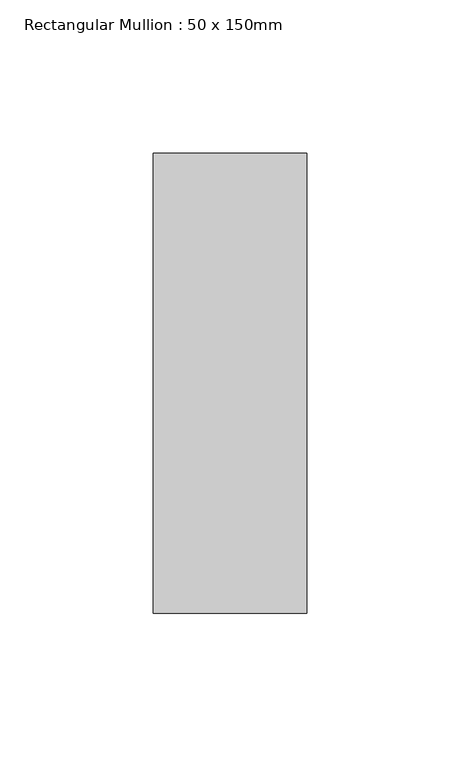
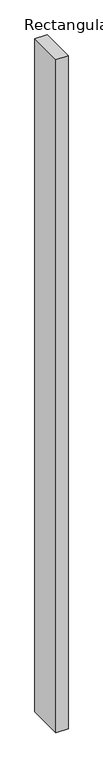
"""IFC4 building model written with IfcOpenShell, lengths in millimetres: member geometry, Rectangular Mullion : 50 x 150mm."""

import ifcopenshell
import ifcopenshell.guid

model = None  # the IFC model being written
_history = None  # IfcOwnerHistory: only IFC2X3 demands one
_inside = {}  # id of a spatial element -> (the spatial element, [elements in it])
_under = {}  # id of a project, library or spatial element -> (it, [spatial elements below it])
_declared = {}  # id of a project -> (the project, [libraries it declares])
_typed = {}  # id of a type object -> (the type object, [elements of that type])
_made_of = {}  # id of a material, layer set ... -> (it, [elements and type objects made of it])


def new_model(schema):
    """Start an empty IFC model of exactly this schema.

    Asked for "IFC4X3", IfcOpenShell would pick the latest addendum, in which some entities
    have other attributes; the version numbers below select the first issue.
    IFC2X3 requires an IfcOwnerHistory on every rooted entity: one is made here for all.
    """
    global model, _history
    if schema == "IFC4X3":
        model = ifcopenshell.file(schema_version=(4, 3, 0, 0))
    else:
        model = ifcopenshell.file(schema=schema)
    _inside.clear()
    _under.clear()
    _declared.clear()
    _typed.clear()
    _made_of.clear()
    _history = None
    if model.schema == "IFC2X3":
        org = make("IfcOrganization", Name="unknown")
        user = make(
            "IfcPersonAndOrganization",
            ThePerson=make("IfcPerson", FamilyName="unknown"),
            TheOrganization=org,
        )
        app = make(
            "IfcApplication",
            ApplicationDeveloper=org,
            Version="unknown",
            ApplicationFullName="unknown",
            ApplicationIdentifier="unknown",
        )
        _history = make(
            "IfcOwnerHistory",
            OwningUser=user,
            OwningApplication=app,
            ChangeAction="ADDED",
            CreationDate=0,
        )
    return model


def make(cls, **values):
    """One entity of the class cls with the attributes given. An attribute that is None is left unset."""
    return model.create_entity(
        cls, **{name: value for name, value in values.items() if value is not None}
    )


def rooted(cls, **values):
    """An entity with a GlobalId (a new one), such as an element, a storey or a relation."""
    return make(cls, GlobalId=ifcopenshell.guid.new(), OwnerHistory=_history, **values)


def si_unit(unit_type, name, prefix=None):
    """IfcSIUnit, for example si_unit("LENGTHUNIT", "METRE", prefix="MILLI")."""
    return make("IfcSIUnit", UnitType=unit_type, Prefix=prefix, Name=name)


def assignment(units):
    """IfcUnitAssignment: the units of a project."""
    return None if units is None else make("IfcUnitAssignment", Units=units)


def point(xyz):
    """IfcCartesianPoint."""
    return None if xyz is None else make("IfcCartesianPoint", Coordinates=xyz)


def direction(xyz):
    """IfcDirection."""
    return None if xyz is None else make("IfcDirection", DirectionRatios=xyz)


def frame(location, z_axis=None, x_axis=None):
    """IfcAxis2Placement3D, a coordinate frame: its origin and axes. An axis left out is left unset."""
    return make(
        "IfcAxis2Placement3D",
        Location=point(location),
        Axis=direction(z_axis),
        RefDirection=direction(x_axis),
    )


def origin():
    """The frame at (0, 0, 0) with its axes left unset."""
    return frame((0.0, 0.0, 0.0))


def place(relative_to, where):
    """IfcLocalPlacement: puts the frame where relative to a parent placement (None: the world)."""
    return make(
        "IfcLocalPlacement", PlacementRelTo=relative_to, RelativePlacement=where
    )


def context(
    kind, dimensions, precision=None, world=None, true_north=None, identifier=None
):
    """IfcGeometricRepresentationContext, for example the 3D "Model" context."""
    return make(
        "IfcGeometricRepresentationContext",
        ContextIdentifier=identifier,
        ContextType=kind,
        CoordinateSpaceDimension=dimensions,
        Precision=precision,
        WorldCoordinateSystem=world,
        TrueNorth=true_north,
    )


def project(units=None, contexts=None):
    """IfcProject with its units and contexts."""
    return rooted(
        "IfcProject",
        Name="project",
        RepresentationContexts=contexts,
        UnitsInContext=assignment(units),
    )


def spatial(cls, under=None, at=None, **own):
    """A site, building, storey or space (cls), placed at a placement, below another one or the project."""
    s = rooted(cls, ObjectPlacement=at, **own)
    if under is not None:
        _under.setdefault(under.id(), (under, []))[1].append(s)
    return s


def polyline(points):
    """IfcPolyline through the points."""
    return make("IfcPolyline", Points=[point(p) for p in points])


def outline(outer, holes=None, kind="AREA"):
    """IfcArbitraryClosedProfileDef: a profile drawn as a closed curve; with holes, ...WithVoids."""
    if holes is None:
        return make("IfcArbitraryClosedProfileDef", ProfileType=kind, OuterCurve=outer)
    return make(
        "IfcArbitraryProfileDefWithVoids",
        ProfileType=kind,
        OuterCurve=outer,
        InnerCurves=holes,
    )


def extrude(swept, where, along, depth):
    """IfcExtrudedAreaSolid: the profile swept, set in the frame where, extruded along a direction by depth."""
    return make(
        "IfcExtrudedAreaSolid",
        SweptArea=swept,
        Position=where,
        ExtrudedDirection=direction(along),
        Depth=depth,
    )


def shape(context_of_items, identifier, shape_type, items):
    """IfcShapeRepresentation: the items that make up one representation, for example the "Body"."""
    return make(
        "IfcShapeRepresentation",
        ContextOfItems=context_of_items,
        RepresentationIdentifier=identifier,
        RepresentationType=shape_type,
        Items=items,
    )


def source(mapping_origin, context_of_items, identifier, shape_type, items):
    """IfcRepresentationMap: a shape defined once, which mapped items show again and again."""
    return make(
        "IfcRepresentationMap",
        MappingOrigin=mapping_origin,
        MappedRepresentation=shape(context_of_items, identifier, shape_type, items),
    )


def transform(
    local_origin,
    x_axis=None,
    y_axis=None,
    z_axis=None,
    scale=None,
    scale2=None,
    scale3=None,
    uniform=True,
):
    """IfcCartesianTransformationOperator3D, or its non-uniform kind. x_axis, y_axis, z_axis: its Axis1, 2, 3."""
    if uniform:
        return make(
            "IfcCartesianTransformationOperator3D",
            Axis1=direction(x_axis),
            Axis2=direction(y_axis),
            LocalOrigin=point(local_origin),
            Scale=scale,
            Axis3=direction(z_axis),
        )
    return make(
        "IfcCartesianTransformationOperator3DnonUniform",
        Axis1=direction(x_axis),
        Axis2=direction(y_axis),
        LocalOrigin=point(local_origin),
        Scale=scale,
        Axis3=direction(z_axis),
        Scale2=scale2,
        Scale3=scale3,
    )


def mapped(mapping_source, mapping_target):
    """IfcMappedItem: shows the shape of a source again, moved by a transform."""
    return make(
        "IfcMappedItem", MappingSource=mapping_source, MappingTarget=mapping_target
    )


def made_of(thing, what):
    """Note that an element or type object is made of a material, layer set ...; save() writes the relation."""
    if what is not None:
        _made_of.setdefault(what.id(), (what, []))[1].append(thing)
    return thing


def element(
    cls,
    number,
    at=None,
    inside=None,
    cuts=None,
    type_object=None,
    material=None,
    context=None,
    identifier="Body",
    shape_type=None,
    held_by="IfcProductDefinitionShape",
    body=None,
    shapes=None,
    **own,
):
    """One element of the class cls, such as IfcWall. Its Tag is "e" and its number.

    at: its placement. inside: the storey or other place that contains it. cuts: it is an
    opening in that element (IfcRelVoidsElement). A single representation is given by context,
    identifier, shape_type and body (its items); several are given by shapes. held_by: the class
    of the entity that holds the representations. save() writes the other relations.
    """
    e = rooted(cls, Tag="e%d" % number, ObjectPlacement=at, **own)
    if body is not None:
        shapes = [shape(context, identifier, shape_type, body)]
    if shapes is not None:
        e.Representation = make(held_by, Representations=shapes)
    if inside is not None:
        _inside.setdefault(inside.id(), (inside, []))[1].append(e)
    if cuts is not None:
        rooted(
            "IfcRelVoidsElement", RelatingBuildingElement=cuts, RelatedOpeningElement=e
        )
    if type_object is not None:
        _typed.setdefault(type_object.id(), (type_object, []))[1].append(e)
    return made_of(e, material)


def aggregate(whole, parts):
    """IfcRelAggregates: a whole, such as a stair, and the parts it consists of."""
    return rooted("IfcRelAggregates", RelatingObject=whole, RelatedObjects=parts)


def save(model, path):
    """Write the relations noted so far, then the file.

    IfcRelAggregates (storeys below a building ...), IfcRelContainedInSpatialStructure (elements
    in a storey), IfcRelDefinesByType, IfcRelAssociatesMaterial and IfcRelDeclares: one each for
    every whole, place, type object, material and project.
    """
    for whole, parts in _under.values():
        aggregate(whole, parts)
    for where, things in _inside.values():
        rooted(
            "IfcRelContainedInSpatialStructure",
            RelatedElements=things,
            RelatingStructure=where,
        )
    for kind, things in _typed.values():
        rooted("IfcRelDefinesByType", RelatedObjects=things, RelatingType=kind)
    for what, things in _made_of.values():
        rooted("IfcRelAssociatesMaterial", RelatedObjects=things, RelatingMaterial=what)
    for by, libraries in _declared.values():
        rooted("IfcRelDeclares", RelatingContext=by, RelatedDefinitions=libraries)
    model.write(path)


def rectangular_mullion_50_x_150mm_2ef494cb(model_context):
    return source(origin(), model_context, "Body", "SweptSolid", [
        extrude(outline(polyline([(0.0, 75.0), (0.0, -75.0), (-50.0, -75.0), (-50.0, 75.0), (0.0, 75.0)])), frame((0.0, 0.0, -2932.5), z_axis=(0.0, 0.0, 1.0), x_axis=(1.0, 0.0, 0.0)), (0.0, 0.0, 1.0), 2932.5),
    ])


if __name__ == "__main__":
    model = new_model("IFC4")
    model_context = context("Model", 3, world=origin())
    ifc_project = project(units=[si_unit("LENGTHUNIT", "METRE", prefix="MILLI")], contexts=[model_context])
    site = spatial("IfcSite", under=ifc_project)
    building = spatial("IfcBuilding", under=site)
    placement = place(None, origin())
    rectangular_mullion_50_x_150mm_shape = rectangular_mullion_50_x_150mm_2ef494cb(model_context)
    element("IfcMember", 1, ObjectType="Rectangular Mullion : 50 x 150mm", at=placement, inside=building, context=model_context, shape_type="MappedRepresentation", body=[
        mapped(rectangular_mullion_50_x_150mm_shape, transform((0.0, 0.0, 0.0), x_axis=(1.0, 0.0, 0.0), y_axis=(0.0, 1.0, 0.0), z_axis=(0.0, 0.0, 1.0))),
    ])
    save(model, "model.ifc")
